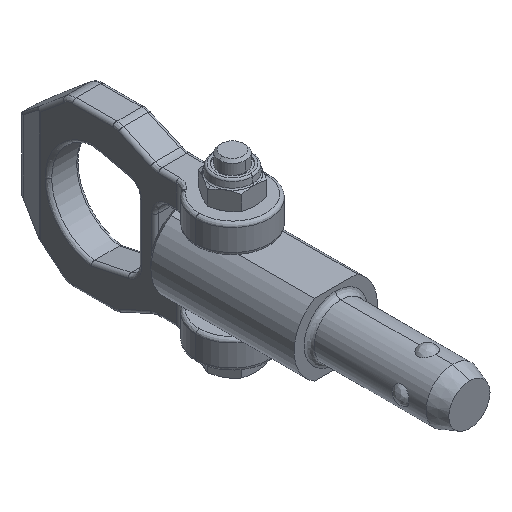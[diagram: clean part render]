
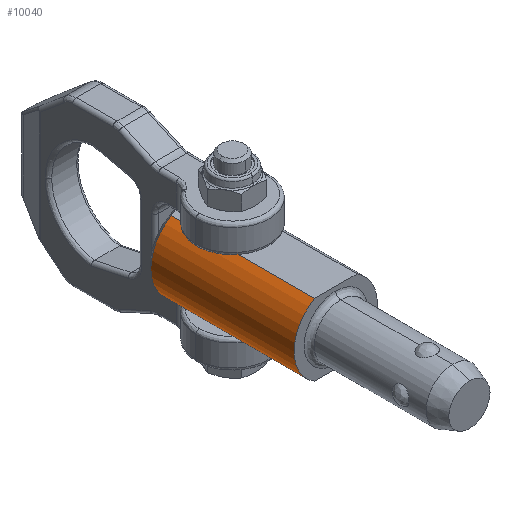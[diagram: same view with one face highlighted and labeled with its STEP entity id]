
A CAD part, isometric view. The second image highlights one B-rep face of the part: STEP entity #10040.
In plain terms, the highlighted cylindrical face has radius 12.5 mm (diameter 25 mm), a partial arc.
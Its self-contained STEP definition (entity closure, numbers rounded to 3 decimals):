
#85 = VECTOR ( 'NONE', #3505, 1000. ) ;
#150 = CIRCLE ( 'NONE', #9225, 12.5 ) ;
#679 = CARTESIAN_POINT ( 'NONE',  ( 43., 6.379, 10.75 ) ) ;
#1510 = ORIENTED_EDGE ( 'NONE', *, *, #9721, .T. ) ;
#1581 = AXIS2_PLACEMENT_3D ( 'NONE', #5471, #8776, #10403 ) ;
#1779 = CARTESIAN_POINT ( 'NONE',  ( 0., 6.379, 10.75 ) ) ;
#2138 = CARTESIAN_POINT ( 'NONE',  ( 47.5, 0., 0. ) ) ;
#2247 = CIRCLE ( 'NONE', #1581, 12.5 ) ;
#2447 = CARTESIAN_POINT ( 'NONE',  ( 43., 6.379, -10.75 ) ) ;
#2457 = CARTESIAN_POINT ( 'NONE',  ( 0., 6.379, -10.75 ) ) ;
#2632 = EDGE_CURVE ( 'NONE', #5484, #3000, #2964, .T. ) ;
#2872 = DIRECTION ( 'NONE',  ( 0., 0., 1. ) ) ;
#2900 = VERTEX_POINT ( 'NONE', #679 ) ;
#2964 = LINE ( 'NONE', #5276, #6325 ) ;
#3000 = VERTEX_POINT ( 'NONE', #2457 ) ;
#3505 = DIRECTION ( 'NONE',  ( 1., 0., 0. ) ) ;
#4396 = DIRECTION ( 'NONE',  ( -1., 0., 0. ) ) ;
#5210 = EDGE_CURVE ( 'NONE', #3000, #9880, #2247, .T. ) ;
#5241 = FACE_OUTER_BOUND ( 'NONE', #8456, .T. ) ;
#5276 = CARTESIAN_POINT ( 'NONE',  ( 47.5, 6.379, -10.75 ) ) ;
#5398 = ORIENTED_EDGE ( 'NONE', *, *, #2632, .T. ) ;
#5471 = CARTESIAN_POINT ( 'NONE',  ( 0., 0., 0. ) ) ;
#5484 = VERTEX_POINT ( 'NONE', #2447 ) ;
#6205 = DIRECTION ( 'NONE',  ( -1., 0., 0. ) ) ;
#6217 = CARTESIAN_POINT ( 'NONE',  ( 43., 0., 0. ) ) ;
#6222 = AXIS2_PLACEMENT_3D ( 'NONE', #2138, #6205, #2872 ) ;
#6325 = VECTOR ( 'NONE', #4396, 1000. ) ;
#7505 = LINE ( 'NONE', #8084, #85 ) ;
#7903 = EDGE_CURVE ( 'NONE', #9880, #2900, #7505, .T. ) ;
#8084 = CARTESIAN_POINT ( 'NONE',  ( 47.5, 6.379, 10.75 ) ) ;
#8154 = ORIENTED_EDGE ( 'NONE', *, *, #5210, .T. ) ;
#8456 = EDGE_LOOP ( 'NONE', ( #8154, #9906, #1510, #5398 ) ) ;
#8776 = DIRECTION ( 'NONE',  ( 1., 0., 0. ) ) ;
#9225 = AXIS2_PLACEMENT_3D ( 'NONE', #6217, #9359, #10201 ) ;
#9350 = CYLINDRICAL_SURFACE ( 'NONE', #6222, 12.5 ) ;
#9359 = DIRECTION ( 'NONE',  ( -1., 0., 0. ) ) ;
#9721 = EDGE_CURVE ( 'NONE', #2900, #5484, #150, .T. ) ;
#9880 = VERTEX_POINT ( 'NONE', #1779 ) ;
#9906 = ORIENTED_EDGE ( 'NONE', *, *, #7903, .T. ) ;
#10040 = ADVANCED_FACE ( 'NONE', ( #5241 ), #9350, .T. ) ;
#10201 = DIRECTION ( 'NONE',  ( 0., 0., 1. ) ) ;
#10403 = DIRECTION ( 'NONE',  ( 0., 0., 1. ) ) ;
